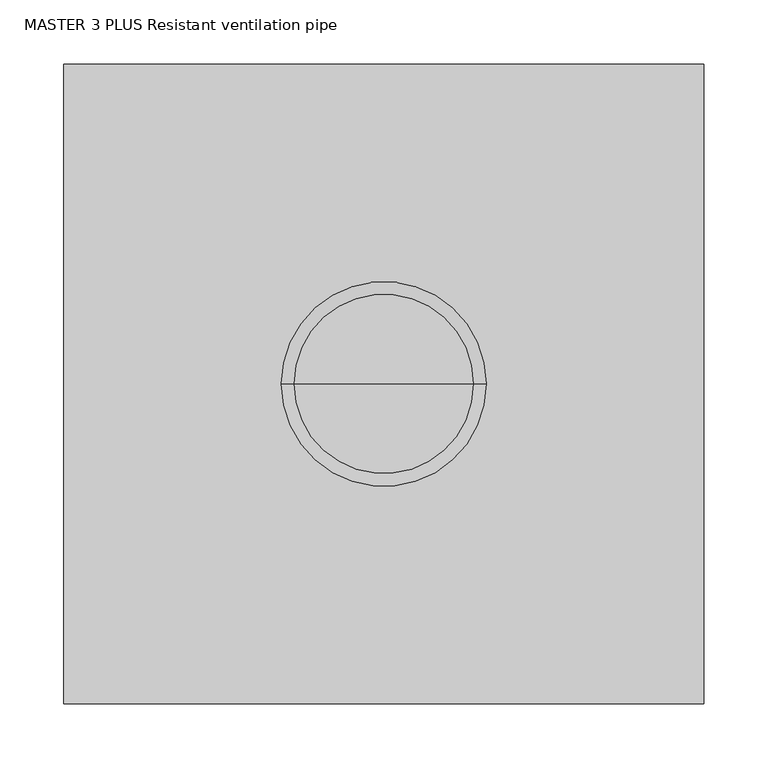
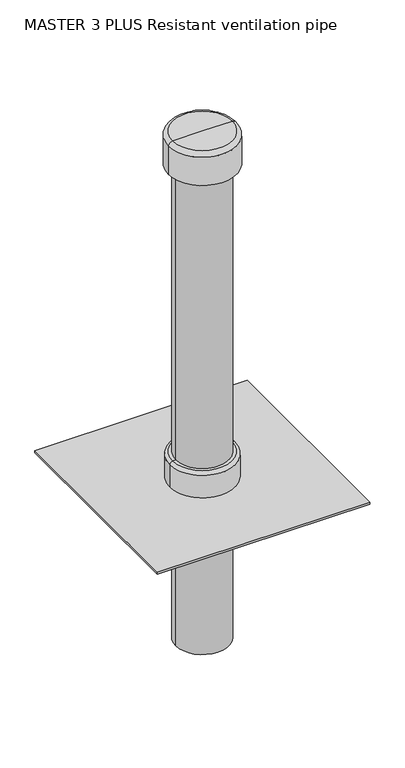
"""IFC4 building model written with IfcOpenShell, lengths in millimetres: valve geometry, MASTER 3 PLUS Resistant ventilation pipe : DN125, Lesp = 400, L3 = 860 mm."""

import ifcopenshell
import ifcopenshell.guid

model = None  # the IFC model being written
_history = None  # IfcOwnerHistory: only IFC2X3 demands one
_inside = {}  # id of a spatial element -> (the spatial element, [elements in it])
_under = {}  # id of a project, library or spatial element -> (it, [spatial elements below it])
_declared = {}  # id of a project -> (the project, [libraries it declares])
_typed = {}  # id of a type object -> (the type object, [elements of that type])
_made_of = {}  # id of a material, layer set ... -> (it, [elements and type objects made of it])


def new_model(schema):
    """Start an empty IFC model of exactly this schema.

    Asked for "IFC4X3", IfcOpenShell would pick the latest addendum, in which some entities
    have other attributes; the version numbers below select the first issue.
    IFC2X3 requires an IfcOwnerHistory on every rooted entity: one is made here for all.
    """
    global model, _history
    if schema == "IFC4X3":
        model = ifcopenshell.file(schema_version=(4, 3, 0, 0))
    else:
        model = ifcopenshell.file(schema=schema)
    _inside.clear()
    _under.clear()
    _declared.clear()
    _typed.clear()
    _made_of.clear()
    _history = None
    if model.schema == "IFC2X3":
        org = make("IfcOrganization", Name="unknown")
        user = make(
            "IfcPersonAndOrganization",
            ThePerson=make("IfcPerson", FamilyName="unknown"),
            TheOrganization=org,
        )
        app = make(
            "IfcApplication",
            ApplicationDeveloper=org,
            Version="unknown",
            ApplicationFullName="unknown",
            ApplicationIdentifier="unknown",
        )
        _history = make(
            "IfcOwnerHistory",
            OwningUser=user,
            OwningApplication=app,
            ChangeAction="ADDED",
            CreationDate=0,
        )
    return model


def make(cls, **values):
    """One entity of the class cls with the attributes given. An attribute that is None is left unset."""
    return model.create_entity(
        cls, **{name: value for name, value in values.items() if value is not None}
    )


def rooted(cls, **values):
    """An entity with a GlobalId (a new one), such as an element, a storey or a relation."""
    return make(cls, GlobalId=ifcopenshell.guid.new(), OwnerHistory=_history, **values)


def si_unit(unit_type, name, prefix=None):
    """IfcSIUnit, for example si_unit("LENGTHUNIT", "METRE", prefix="MILLI")."""
    return make("IfcSIUnit", UnitType=unit_type, Prefix=prefix, Name=name)


def assignment(units):
    """IfcUnitAssignment: the units of a project."""
    return None if units is None else make("IfcUnitAssignment", Units=units)


def point(xyz):
    """IfcCartesianPoint."""
    return None if xyz is None else make("IfcCartesianPoint", Coordinates=xyz)


def direction(xyz):
    """IfcDirection."""
    return None if xyz is None else make("IfcDirection", DirectionRatios=xyz)


def frame(location, z_axis=None, x_axis=None):
    """IfcAxis2Placement3D, a coordinate frame: its origin and axes. An axis left out is left unset."""
    return make(
        "IfcAxis2Placement3D",
        Location=point(location),
        Axis=direction(z_axis),
        RefDirection=direction(x_axis),
    )


def frame_2d(location, x_axis=None):
    """IfcAxis2Placement2D, a coordinate frame in the plane: its origin and x axis."""
    return make(
        "IfcAxis2Placement2D", Location=point(location), RefDirection=direction(x_axis)
    )


def origin():
    """The frame at (0, 0, 0) with its axes left unset."""
    return frame((0.0, 0.0, 0.0))


def origin_with_axes():
    """The frame at (0, 0, 0) with the z axis (0, 0, 1) and the x axis (1, 0, 0) written out."""
    return frame((0.0, 0.0, 0.0), z_axis=(0.0, 0.0, 1.0), x_axis=(1.0, 0.0, 0.0))


def origin_2d():
    """The frame at (0, 0) in the plane with its x axis left unset."""
    return frame_2d((0.0, 0.0))


def place(relative_to, where):
    """IfcLocalPlacement: puts the frame where relative to a parent placement (None: the world)."""
    return make(
        "IfcLocalPlacement", PlacementRelTo=relative_to, RelativePlacement=where
    )


def context(
    kind, dimensions, precision=None, world=None, true_north=None, identifier=None
):
    """IfcGeometricRepresentationContext, for example the 3D "Model" context."""
    return make(
        "IfcGeometricRepresentationContext",
        ContextIdentifier=identifier,
        ContextType=kind,
        CoordinateSpaceDimension=dimensions,
        Precision=precision,
        WorldCoordinateSystem=world,
        TrueNorth=true_north,
    )


def project(units=None, contexts=None):
    """IfcProject with its units and contexts."""
    return rooted(
        "IfcProject",
        Name="project",
        RepresentationContexts=contexts,
        UnitsInContext=assignment(units),
    )


def spatial(cls, under=None, at=None, **own):
    """A site, building, storey or space (cls), placed at a placement, below another one or the project."""
    s = rooted(cls, ObjectPlacement=at, **own)
    if under is not None:
        _under.setdefault(under.id(), (under, []))[1].append(s)
    return s


def polyline(points):
    """IfcPolyline through the points."""
    return make("IfcPolyline", Points=[point(p) for p in points])


def circle_curve(where, radius):
    """IfcCircle in the frame where."""
    return make("IfcCircle", Position=where, Radius=radius)


def ellipse_curve(where, semi_axis1, semi_axis2):
    """IfcEllipse in the frame where."""
    return make(
        "IfcEllipse", Position=where, SemiAxis1=semi_axis1, SemiAxis2=semi_axis2
    )


def trimmed(basis, trim1, trim2, sense, master):
    """IfcTrimmedCurve: the piece of a basis curve between two trims."""
    return make(
        "IfcTrimmedCurve",
        BasisCurve=basis,
        Trim1=trim1,
        Trim2=trim2,
        SenseAgreement=sense,
        MasterRepresentation=master,
    )


def segment(curve, same_sense, transition):
    """IfcCompositeCurveSegment."""
    return make(
        "IfcCompositeCurveSegment",
        Transition=transition,
        SameSense=same_sense,
        ParentCurve=curve,
    )


def composite_curve(segments, self_intersect=None):
    """IfcCompositeCurve: segments joined end to end."""
    return make("IfcCompositeCurve", Segments=segments, SelfIntersect=self_intersect)


def outline(outer, holes=None, kind="AREA"):
    """IfcArbitraryClosedProfileDef: a profile drawn as a closed curve; with holes, ...WithVoids."""
    if holes is None:
        return make("IfcArbitraryClosedProfileDef", ProfileType=kind, OuterCurve=outer)
    return make(
        "IfcArbitraryProfileDefWithVoids",
        ProfileType=kind,
        OuterCurve=outer,
        InnerCurves=holes,
    )


def extrude(swept, where, along, depth):
    """IfcExtrudedAreaSolid: the profile swept, set in the frame where, extruded along a direction by depth."""
    return make(
        "IfcExtrudedAreaSolid",
        SweptArea=swept,
        Position=where,
        ExtrudedDirection=direction(along),
        Depth=depth,
    )


def shape(context_of_items, identifier, shape_type, items):
    """IfcShapeRepresentation: the items that make up one representation, for example the "Body"."""
    return make(
        "IfcShapeRepresentation",
        ContextOfItems=context_of_items,
        RepresentationIdentifier=identifier,
        RepresentationType=shape_type,
        Items=items,
    )


def source(mapping_origin, context_of_items, identifier, shape_type, items):
    """IfcRepresentationMap: a shape defined once, which mapped items show again and again."""
    return make(
        "IfcRepresentationMap",
        MappingOrigin=mapping_origin,
        MappedRepresentation=shape(context_of_items, identifier, shape_type, items),
    )


def transform(
    local_origin,
    x_axis=None,
    y_axis=None,
    z_axis=None,
    scale=None,
    scale2=None,
    scale3=None,
    uniform=True,
):
    """IfcCartesianTransformationOperator3D, or its non-uniform kind. x_axis, y_axis, z_axis: its Axis1, 2, 3."""
    if uniform:
        return make(
            "IfcCartesianTransformationOperator3D",
            Axis1=direction(x_axis),
            Axis2=direction(y_axis),
            LocalOrigin=point(local_origin),
            Scale=scale,
            Axis3=direction(z_axis),
        )
    return make(
        "IfcCartesianTransformationOperator3DnonUniform",
        Axis1=direction(x_axis),
        Axis2=direction(y_axis),
        LocalOrigin=point(local_origin),
        Scale=scale,
        Axis3=direction(z_axis),
        Scale2=scale2,
        Scale3=scale3,
    )


def mapped(mapping_source, mapping_target):
    """IfcMappedItem: shows the shape of a source again, moved by a transform."""
    return make(
        "IfcMappedItem", MappingSource=mapping_source, MappingTarget=mapping_target
    )


def made_of(thing, what):
    """Note that an element or type object is made of a material, layer set ...; save() writes the relation."""
    if what is not None:
        _made_of.setdefault(what.id(), (what, []))[1].append(thing)
    return thing


def element(
    cls,
    number,
    at=None,
    inside=None,
    cuts=None,
    type_object=None,
    material=None,
    context=None,
    identifier="Body",
    shape_type=None,
    held_by="IfcProductDefinitionShape",
    body=None,
    shapes=None,
    **own,
):
    """One element of the class cls, such as IfcWall. Its Tag is "e" and its number.

    at: its placement. inside: the storey or other place that contains it. cuts: it is an
    opening in that element (IfcRelVoidsElement). A single representation is given by context,
    identifier, shape_type and body (its items); several are given by shapes. held_by: the class
    of the entity that holds the representations. save() writes the other relations.
    """
    e = rooted(cls, Tag="e%d" % number, ObjectPlacement=at, **own)
    if body is not None:
        shapes = [shape(context, identifier, shape_type, body)]
    if shapes is not None:
        e.Representation = make(held_by, Representations=shapes)
    if inside is not None:
        _inside.setdefault(inside.id(), (inside, []))[1].append(e)
    if cuts is not None:
        rooted(
            "IfcRelVoidsElement", RelatingBuildingElement=cuts, RelatedOpeningElement=e
        )
    if type_object is not None:
        _typed.setdefault(type_object.id(), (type_object, []))[1].append(e)
    return made_of(e, material)


def aggregate(whole, parts):
    """IfcRelAggregates: a whole, such as a stair, and the parts it consists of."""
    return rooted("IfcRelAggregates", RelatingObject=whole, RelatedObjects=parts)


def save(model, path):
    """Write the relations noted so far, then the file.

    IfcRelAggregates (storeys below a building ...), IfcRelContainedInSpatialStructure (elements
    in a storey), IfcRelDefinesByType, IfcRelAssociatesMaterial and IfcRelDeclares: one each for
    every whole, place, type object, material and project.
    """
    for whole, parts in _under.values():
        aggregate(whole, parts)
    for where, things in _inside.values():
        rooted(
            "IfcRelContainedInSpatialStructure",
            RelatedElements=things,
            RelatingStructure=where,
        )
    for kind, things in _typed.values():
        rooted("IfcRelDefinesByType", RelatedObjects=things, RelatingType=kind)
    for what, things in _made_of.values():
        rooted("IfcRelAssociatesMaterial", RelatedObjects=things, RelatingMaterial=what)
    for by, libraries in _declared.values():
        rooted("IfcRelDeclares", RelatingContext=by, RelatedDefinitions=libraries)
    model.write(path)


def plane_surface(at):
    """IfcPlane: the flat surface through the origin of the frame at, square to its z axis."""
    return make("IfcPlane", Position=at)


def cylinder_surface(at, radius):
    """IfcCylindricalSurface: all points at the distance radius from the z axis of the frame at."""
    return make("IfcCylindricalSurface", Position=at, Radius=radius)


def revolved_surface(curve, axis_point, axis_direction):
    """IfcSurfaceOfRevolution: the curve turned about the line through axis_point along axis_direction."""
    return make(
        "IfcSurfaceOfRevolution",
        SweptCurve=make("IfcArbitraryOpenProfileDef", ProfileType="CURVE", Curve=curve),
        AxisPosition=make("IfcAxis1Placement", Location=point(axis_point), Axis=direction(axis_direction)),
    )


def advanced_brep(points, edges, surfaces, faces):
    """IfcAdvancedBrep: a solid bounded by faces that lie on surfaces and meet in shared edges.

    An edge is (start, end): straight between two places in points (the first is 0);
    or (start, end, curve); or (start, end, curve, False) where it runs against its curve.
    A face is (place in surfaces, loops), or (place, loops, False) where it looks against
    its surface's normal. A loop lists edges by number (the first is 1), with a minus sign
    where the edge is run from its end to its start. The first loop is the outer one.
    """
    corners = [point(p) for p in points]
    vertices = [make("IfcVertexPoint", VertexGeometry=c) for c in corners]
    made = []
    for start, end, *more in edges:
        made.append(
            make(
                "IfcEdgeCurve",
                EdgeStart=vertices[start],
                EdgeEnd=vertices[end],
                EdgeGeometry=more[0] if more else make("IfcPolyline", Points=[corners[start], corners[end]]),
                SameSense=more[1] if len(more) > 1 else True,
            )
        )
    hull = []
    for where, loops, *sense in faces:
        bounds = []
        for j, loop in enumerate(loops):
            ring = [make("IfcOrientedEdge", EdgeElement=made[abs(k) - 1], Orientation=k > 0) for k in loop]
            bounds.append(
                make(
                    "IfcFaceOuterBound" if j == 0 else "IfcFaceBound",
                    Bound=make("IfcEdgeLoop", EdgeList=ring),
                    Orientation=True,
                )
            )
        hull.append(make("IfcAdvancedFace", Bounds=bounds, FaceSurface=surfaces[where], SameSense=sense[0] if sense else True))
    return make("IfcAdvancedBrep", Outer=make("IfcClosedShell", CfsFaces=hull))


def master_3_plus_resistant_ventilation_pipe_89b7686a(model_context):
    return source(origin(), model_context, "Body", "SolidModel", [
        advanced_brep(
        [(70.0, 0.0, 1260.0), (-70.0, 0.0, 1260.0), (0.0, 0.0, 1260.0), (80.0, 0.0, 1180.0), (-80.0, 0.0, 1180.0), (-80.0, 0.0, 1250.0), (80.0, 0.0, 1250.0), (0.0, 0.0, 1180.0)],
        [
            (0, 1, circle_curve(frame((0.0, 0.0, 1260.0), z_axis=(0.0, 0.0, 1.0), x_axis=(-1.0, 0.0, 0.0)), 70.0)),
            (1, 2),
            (2, 0),
            (1, 0, circle_curve(frame((0.0, 0.0, 1260.0), z_axis=(0.0, 0.0, 1.0), x_axis=(-1.0, 0.0, 0.0)), 70.0)),
            (3, 4, circle_curve(frame((0.0, 0.0, 1180.0), z_axis=(0.0, 0.0, 1.0), x_axis=(-1.0, 0.0, 0.0)), 80.0)),
            (4, 5),
            (5, 6, circle_curve(frame((0.0, 0.0, 1250.0), z_axis=(0.0, 0.0, -1.0), x_axis=(-1.0, 0.0, 0.0)), 80.0)),
            (6, 3),
            (4, 3, circle_curve(frame((0.0, 0.0, 1180.0), z_axis=(0.0, 0.0, 1.0), x_axis=(-1.0, 0.0, 0.0)), 80.0)),
            (6, 5, circle_curve(frame((0.0, 0.0, 1250.0), z_axis=(0.0, 0.0, -1.0), x_axis=(-1.0, 0.0, 0.0)), 80.0)),
            (7, 4),
            (3, 7),
            (5, 1, circle_curve(frame((-70.0, 0.0, 1250.0), z_axis=(0.0, 1.0, 0.0), x_axis=(1.0, 0.0, 0.0)), 10.0)),
            (0, 6, circle_curve(frame((70.0, 0.0, 1250.0), z_axis=(0.0, 1.0, 0.0), x_axis=(-1.0, 0.0, 0.0)), 10.0)),
        ],
        [
            plane_surface(frame((0.0, 0.0, 1260.0), z_axis=(0.0, 0.0, 1.0), x_axis=(-1.0, 0.0, 0.0))),
            cylinder_surface(frame((0.0, 0.0, 1260.0), z_axis=(0.0, 0.0, -1.0), x_axis=(-1.0, 0.0, 0.0)), 80.0),
            plane_surface(frame((0.0, 0.0, 1180.0), z_axis=(0.0, 0.0, -1.0), x_axis=(-1.0, 0.0, 0.0))),
            revolved_surface(trimmed(ellipse_curve(frame((-70.0, 0.0, 1250.0), z_axis=(0.0, -1.0, 0.0), x_axis=(1.0, 0.0, 0.0)), 10.0, 10.0), [point((-70.0, 0.0, 1260.0))], [point((-80.0, 0.0, 1250.0))], True, "CARTESIAN"), (0.0, 0.0, 1260.0), (0.0, 0.0, -1.0)),
        ],
        [
            (0, [[1, 2, 3]]),
            (0, [[4, -3, -2]]),
            (1, [[5, 6, 7, 8]]),
            (1, [[9, -8, 10, -6]]),
            (2, [[11, -5, 12]]),
            (2, [[-12, -9, -11]]),
            (3, [[-7, 13, -1, 14]]),
            (3, [[-10, -14, -4, -13]]),
        ],
    ),
        extrude(outline(polyline([(250.0, 250.0), (250.0, -250.0), (-250.0, -250.0), (-250.0, 250.0), (250.0, 250.0)]), holes=[composite_curve([segment(trimmed(circle_curve(origin_2d(), 62.5), [point((-62.5, 0.0))], [point((62.5, 0.0))], True, "CARTESIAN"), True, "CONTINUOUS"), segment(trimmed(circle_curve(origin_2d(), 62.5), [point((62.5, 0.0))], [point((-62.5, 0.0))], True, "CARTESIAN"), True, "CONTINUOUS")], self_intersect=False)]), frame((0.0, 0.0, 394.9838403), z_axis=(0.0, 0.0, 1.0), x_axis=(1.0, 0.0, 0.0)), (0.0, 0.0, 1.0), 5.0161597),
        advanced_brep(
        [(77.0, 0.0, 400.0), (-77.0, 0.0, 400.0), (-77.0, 0.0, 455.75), (77.0, 0.0, 455.75), (62.5, 0.0, 400.0), (-62.5, 0.0, 400.0), (62.5, 0.0, 463.0), (-62.5, 0.0, 463.0), (69.75, 0.0, 463.0), (-69.75, 0.0, 463.0)],
        [
            (0, 1, circle_curve(frame((0.0, 0.0, 400.0), z_axis=(0.0, 0.0, 1.0), x_axis=(-1.0, 0.0, 0.0)), 77.0)),
            (1, 2),
            (2, 3, circle_curve(frame((0.0, 0.0, 455.75), z_axis=(0.0, 0.0, -1.0), x_axis=(-1.0, 0.0, 0.0)), 77.0)),
            (3, 0),
            (1, 0, circle_curve(frame((0.0, 0.0, 400.0), z_axis=(0.0, 0.0, 1.0), x_axis=(-1.0, 0.0, 0.0)), 77.0)),
            (3, 2, circle_curve(frame((0.0, 0.0, 455.75), z_axis=(0.0, 0.0, -1.0), x_axis=(-1.0, 0.0, 0.0)), 77.0)),
            (4, 5, circle_curve(frame((0.0, 0.0, 400.0), z_axis=(0.0, 0.0, 1.0), x_axis=(-1.0, 0.0, 0.0)), 62.5)),
            (5, 1),
            (0, 4),
            (5, 4, circle_curve(frame((0.0, 0.0, 400.0), z_axis=(0.0, 0.0, 1.0), x_axis=(-1.0, 0.0, 0.0)), 62.5)),
            (6, 7, circle_curve(frame((0.0, 0.0, 463.0), z_axis=(0.0, 0.0, 1.0), x_axis=(-1.0, 0.0, 0.0)), 62.5)),
            (7, 5),
            (4, 6),
            (7, 6, circle_curve(frame((0.0, 0.0, 463.0), z_axis=(0.0, 0.0, 1.0), x_axis=(-1.0, 0.0, 0.0)), 62.5)),
            (8, 9, circle_curve(frame((0.0, 0.0, 463.0), z_axis=(0.0, 0.0, 1.0), x_axis=(-1.0, 0.0, 0.0)), 69.75)),
            (9, 7),
            (6, 8),
            (9, 8, circle_curve(frame((0.0, 0.0, 463.0), z_axis=(0.0, 0.0, 1.0), x_axis=(-1.0, 0.0, 0.0)), 69.75)),
            (2, 9, circle_curve(frame((-69.75, 0.0, 455.75), z_axis=(0.0, 1.0, 0.0), x_axis=(1.0, 0.0, 0.0)), 7.25)),
            (8, 3, circle_curve(frame((69.75, 0.0, 455.75), z_axis=(0.0, 1.0, 0.0), x_axis=(-1.0, 0.0, 0.0)), 7.25)),
        ],
        [
            cylinder_surface(frame((0.0, 0.0, 463.0), z_axis=(0.0, 0.0, -1.0), x_axis=(-1.0, 0.0, 0.0)), 77.0),
            plane_surface(frame((0.0, 0.0, 400.0), z_axis=(0.0, 0.0, -1.0), x_axis=(-1.0, 0.0, 0.0))),
            revolved_surface(polyline([(-62.5, 0.0, 400.0), (-62.5, 0.0, 463.0)]), (0.0, 0.0, 463.0), (0.0, 0.0, -1.0)),
            plane_surface(frame((0.0, 0.0, 463.0), z_axis=(0.0, 0.0, 1.0), x_axis=(-1.0, 0.0, 0.0))),
            revolved_surface(trimmed(ellipse_curve(frame((-69.75, 0.0, 455.75), z_axis=(0.0, -1.0, 0.0), x_axis=(1.0, 0.0, 0.0)), 7.25, 7.25), [point((-69.75, 0.0, 463.0))], [point((-77.0, 0.0, 455.75))], True, "CARTESIAN"), (0.0, 0.0, 463.0), (0.0, 0.0, -1.0)),
        ],
        [
            (0, [[1, 2, 3, 4]]),
            (0, [[5, -4, 6, -2]]),
            (1, [[7, 8, -1, 9]]),
            (1, [[10, -9, -5, -8]]),
            (2, [[11, 12, -7, 13]]),
            (2, [[14, -13, -10, -12]]),
            (3, [[15, 16, -11, 17]]),
            (3, [[18, -17, -14, -16]]),
            (4, [[-3, 19, -15, 20]]),
            (4, [[-6, -20, -18, -19]]),
        ],
    ),
        extrude(outline(composite_curve([segment(trimmed(circle_curve(origin_2d(), 62.5), [point((62.5, 0.0))], [point((-62.5, 0.0))], False, "CARTESIAN"), True, "CONTINUOUS"), segment(trimmed(circle_curve(origin_2d(), 62.5), [point((-62.5, 0.0))], [point((62.5, 0.0))], False, "CARTESIAN"), True, "CONTINUOUS")], self_intersect=False)), frame((0.0, 0.0, 400.0), z_axis=(0.0, 0.0, 1.0), x_axis=(1.0, 0.0, 0.0)), (0.0, 0.0, 1.0), 832.0),
        extrude(outline(composite_curve([segment(trimmed(circle_curve(origin_2d(), 62.5), [point((-62.5, 0.0))], [point((62.5, 0.0))], False, "CARTESIAN"), True, "CONTINUOUS"), segment(trimmed(circle_curve(origin_2d(), 62.5), [point((62.5, 0.0))], [point((-62.5, 0.0))], False, "CARTESIAN"), True, "CONTINUOUS")], self_intersect=False)), origin_with_axes(), (0.0, 0.0, 1.0), 394.9838403),
    ])


if __name__ == "__main__":
    model = new_model("IFC4")
    model_context = context("Model", 3, world=origin())
    ifc_project = project(units=[si_unit("LENGTHUNIT", "METRE", prefix="MILLI")], contexts=[model_context])
    site = spatial("IfcSite", under=ifc_project)
    building = spatial("IfcBuilding", under=site)
    placement = place(None, origin())
    master_3_plus_resistant_ventilation_pipe_shape = master_3_plus_resistant_ventilation_pipe_89b7686a(model_context)
    element("IfcValve", 1, ObjectType="MASTER 3 PLUS Resistant ventilation pipe : DN125, Lesp = 400, L3 = 860 mm", at=placement, inside=building, context=model_context, shape_type="MappedRepresentation", body=[
        mapped(master_3_plus_resistant_ventilation_pipe_shape, transform((0.0, 0.0, 0.0), x_axis=(1.0, 0.0, 0.0), y_axis=(0.0, 1.0, 0.0), z_axis=(0.0, 0.0, 1.0))),
    ])
    save(model, "model.ifc")
